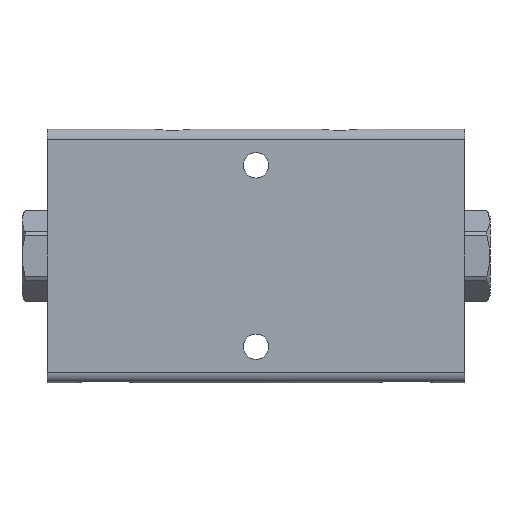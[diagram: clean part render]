
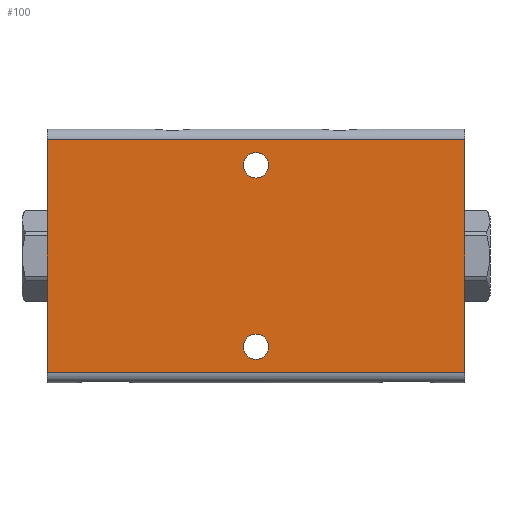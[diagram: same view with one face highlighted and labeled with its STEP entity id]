
A CAD part, front view. The second image highlights one B-rep face of the part: STEP entity #100.
In plain terms, the highlighted planar face has unit normal (0, -1, 0).
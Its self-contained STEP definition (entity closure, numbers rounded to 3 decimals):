
#20 = ORIENTED_EDGE ( 'NONE', *, *, #1448, .T. ) ;
#100 = ADVANCED_FACE ( 'NONE', ( #2513, #912, #1125 ), #1160, .T. ) ;
#132 = EDGE_LOOP ( 'NONE', ( #3116, #334 ) ) ;
#139 = CARTESIAN_POINT ( 'NONE',  ( 57.5, -17.5, 35. ) ) ;
#165 = ORIENTED_EDGE ( 'NONE', *, *, #3005, .T. ) ;
#212 = EDGE_CURVE ( 'NONE', #522, #2728, #2938, .T. ) ;
#271 = EDGE_CURVE ( 'NONE', #2870, #1154, #2667, .T. ) ;
#334 = ORIENTED_EDGE ( 'NONE', *, *, #1950, .T. ) ;
#461 = CARTESIAN_POINT ( 'NONE',  ( 0., -17.5, 25. ) ) ;
#515 = CIRCLE ( 'NONE', #2241, 3.5 ) ;
#522 = VERTEX_POINT ( 'NONE', #1640 ) ;
#537 = DIRECTION ( 'NONE',  ( 0., 1., 0. ) ) ;
#582 = CARTESIAN_POINT ( 'NONE',  ( 57.5, -17.5, -32. ) ) ;
#636 = CARTESIAN_POINT ( 'NONE',  ( 0., -17.5, -21.5 ) ) ;
#667 = DIRECTION ( 'NONE',  ( 0., 0., 1. ) ) ;
#689 = CARTESIAN_POINT ( 'NONE',  ( -57.5, -17.5, 32. ) ) ;
#795 = ORIENTED_EDGE ( 'NONE', *, *, #271, .F. ) ;
#844 = CIRCLE ( 'NONE', #894, 3.5 ) ;
#854 = DIRECTION ( 'NONE',  ( 0., 0., 1. ) ) ;
#863 = CARTESIAN_POINT ( 'NONE',  ( 57.5, -17.5, -35. ) ) ;
#894 = AXIS2_PLACEMENT_3D ( 'NONE', #461, #2357, #1304 ) ;
#896 = CARTESIAN_POINT ( 'NONE',  ( -57.5, -17.5, 32. ) ) ;
#912 = FACE_BOUND ( 'NONE', #132, .T. ) ;
#915 = VERTEX_POINT ( 'NONE', #1785 ) ;
#982 = LINE ( 'NONE', #689, #1370 ) ;
#1020 = CARTESIAN_POINT ( 'NONE',  ( 0., -17.5, 25. ) ) ;
#1068 = DIRECTION ( 'NONE',  ( 1., 0., 0. ) ) ;
#1125 = FACE_OUTER_BOUND ( 'NONE', #3034, .T. ) ;
#1154 = VERTEX_POINT ( 'NONE', #896 ) ;
#1160 = PLANE ( 'NONE',  #3044 ) ;
#1199 = DIRECTION ( 'NONE',  ( 0., 0., 1. ) ) ;
#1241 = ORIENTED_EDGE ( 'NONE', *, *, #1760, .F. ) ;
#1304 = DIRECTION ( 'NONE',  ( 0., 0., 1. ) ) ;
#1307 = CARTESIAN_POINT ( 'NONE',  ( 0., -17.5, 28.5 ) ) ;
#1370 = VECTOR ( 'NONE', #2817, 1000. ) ;
#1448 = EDGE_CURVE ( 'NONE', #2870, #3192, #2908, .T. ) ;
#1627 = CIRCLE ( 'NONE', #1680, 3.5 ) ;
#1640 = CARTESIAN_POINT ( 'NONE',  ( 0., -17.5, 21.5 ) ) ;
#1680 = AXIS2_PLACEMENT_3D ( 'NONE', #3286, #3269, #1199 ) ;
#1710 = EDGE_CURVE ( 'NONE', #2156, #1154, #982, .T. ) ;
#1760 = EDGE_CURVE ( 'NONE', #2156, #3192, #2334, .T. ) ;
#1785 = CARTESIAN_POINT ( 'NONE',  ( 0., -17.5, -28.5 ) ) ;
#1950 = EDGE_CURVE ( 'NONE', #915, #2161, #515, .T. ) ;
#1975 = DIRECTION ( 'NONE',  ( 0., -1., 0. ) ) ;
#1978 = VECTOR ( 'NONE', #3133, 1000. ) ;
#2083 = DIRECTION ( 'NONE',  ( 0., 1., 0. ) ) ;
#2098 = CARTESIAN_POINT ( 'NONE',  ( -57.5, -17.5, 35. ) ) ;
#2123 = EDGE_CURVE ( 'NONE', #2161, #915, #1627, .T. ) ;
#2156 = VERTEX_POINT ( 'NONE', #2789 ) ;
#2161 = VERTEX_POINT ( 'NONE', #636 ) ;
#2241 = AXIS2_PLACEMENT_3D ( 'NONE', #2378, #537, #854 ) ;
#2251 = ORIENTED_EDGE ( 'NONE', *, *, #1710, .T. ) ;
#2334 = LINE ( 'NONE', #139, #1978 ) ;
#2357 = DIRECTION ( 'NONE',  ( 0., 1., 0. ) ) ;
#2378 = CARTESIAN_POINT ( 'NONE',  ( 0., -17.5, -25. ) ) ;
#2387 = CARTESIAN_POINT ( 'NONE',  ( 57.5, -17.5, -32. ) ) ;
#2513 = FACE_BOUND ( 'NONE', #3363, .T. ) ;
#2515 = CARTESIAN_POINT ( 'NONE',  ( -57.5, -17.5, -32. ) ) ;
#2667 = LINE ( 'NONE', #2098, #2852 ) ;
#2728 = VERTEX_POINT ( 'NONE', #1307 ) ;
#2789 = CARTESIAN_POINT ( 'NONE',  ( 57.5, -17.5, 32. ) ) ;
#2817 = DIRECTION ( 'NONE',  ( -1., 0., 0. ) ) ;
#2852 = VECTOR ( 'NONE', #3203, 1000. ) ;
#2870 = VERTEX_POINT ( 'NONE', #2515 ) ;
#2908 = LINE ( 'NONE', #2387, #3197 ) ;
#2938 = CIRCLE ( 'NONE', #3299, 3.5 ) ;
#3005 = EDGE_CURVE ( 'NONE', #2728, #522, #844, .T. ) ;
#3034 = EDGE_LOOP ( 'NONE', ( #795, #20, #1241, #2251 ) ) ;
#3044 = AXIS2_PLACEMENT_3D ( 'NONE', #863, #1975, #3048 ) ;
#3048 = DIRECTION ( 'NONE',  ( 0., 0., -1. ) ) ;
#3116 = ORIENTED_EDGE ( 'NONE', *, *, #2123, .T. ) ;
#3133 = DIRECTION ( 'NONE',  ( 0., 0., -1. ) ) ;
#3192 = VERTEX_POINT ( 'NONE', #582 ) ;
#3197 = VECTOR ( 'NONE', #1068, 1000. ) ;
#3203 = DIRECTION ( 'NONE',  ( 0., 0., 1. ) ) ;
#3269 = DIRECTION ( 'NONE',  ( 0., 1., 0. ) ) ;
#3286 = CARTESIAN_POINT ( 'NONE',  ( 0., -17.5, -25. ) ) ;
#3299 = AXIS2_PLACEMENT_3D ( 'NONE', #1020, #2083, #667 ) ;
#3363 = EDGE_LOOP ( 'NONE', ( #165, #3456 ) ) ;
#3456 = ORIENTED_EDGE ( 'NONE', *, *, #212, .T. ) ;
